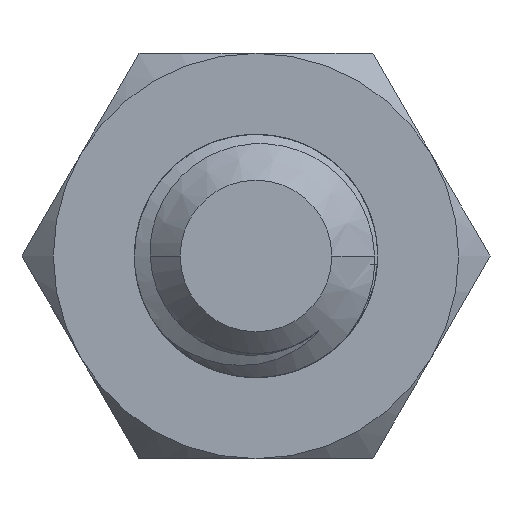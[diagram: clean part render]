
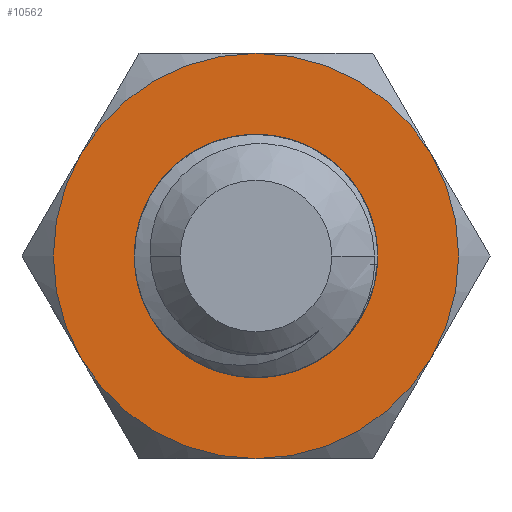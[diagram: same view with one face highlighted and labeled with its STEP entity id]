
A CAD part, front view. The second image highlights one B-rep face of the part: STEP entity #10562.
In plain terms, the highlighted planar face has unit normal (0, -1, 0).
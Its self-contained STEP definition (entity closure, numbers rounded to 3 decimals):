
#3989=CARTESIAN_POINT('',(0.,33.13,0.));
#3990=DIRECTION('',(0.,-1.,0.));
#3991=DIRECTION('',(-1.,0.,0.));
#3992=AXIS2_PLACEMENT_3D('',#3989,#3990,#3991);
#4012=CARTESIAN_POINT('',(0.,33.13,0.));
#4013=DIRECTION('',(0.,-1.,0.));
#4014=DIRECTION('',(1.,0.,0.));
#4015=AXIS2_PLACEMENT_3D('',#4012,#4013,#4014);
#4028=CARTESIAN_POINT('',(0.,33.13,0.));
#4029=DIRECTION('',(0.,1.,0.));
#4030=DIRECTION('',(0.866,0.,-0.5));
#4031=AXIS2_PLACEMENT_3D('',#4028,#4029,#4030);
#4036=CARTESIAN_POINT('',(0.,33.13,0.));
#4037=DIRECTION('',(0.,1.,0.));
#4038=DIRECTION('',(0.,0.,-1.));
#4039=AXIS2_PLACEMENT_3D('',#4036,#4037,#4038);
#4044=CARTESIAN_POINT('',(0.,33.13,0.));
#4045=DIRECTION('',(0.,1.,0.));
#4046=DIRECTION('',(-0.866,0.,0.5));
#4047=AXIS2_PLACEMENT_3D('',#4044,#4045,#4046);
#4052=CARTESIAN_POINT('',(0.,33.13,0.));
#4053=DIRECTION('',(0.,1.,0.));
#4054=DIRECTION('',(0.,0.,1.));
#4055=AXIS2_PLACEMENT_3D('',#4052,#4053,#4054);
#4060=CARTESIAN_POINT('',(0.,33.13,0.));
#4061=DIRECTION('',(0.,-1.,0.));
#4062=DIRECTION('',(0.866,0.,-0.5));
#4063=AXIS2_PLACEMENT_3D('',#4060,#4061,#4062);
#4333=CARTESIAN_POINT('',(0.,33.13,0.));
#4334=DIRECTION('',(0.,-1.,0.));
#4335=DIRECTION('',(-0.866,0.,0.5));
#4336=AXIS2_PLACEMENT_3D('',#4333,#4334,#4335);
#8208=CARTESIAN_POINT('',(2.4,33.13,0.));
#8209=CARTESIAN_POINT('',(-2.4,33.13,0.));
#8210=VERTEX_POINT('',#8208);
#8211=VERTEX_POINT('',#8209);
#8212=CARTESIAN_POINT('',(4.33,33.13,-2.5));
#8213=CARTESIAN_POINT('',(0.,33.13,-5.));
#8214=VERTEX_POINT('',#8212);
#8215=VERTEX_POINT('',#8213);
#8216=CARTESIAN_POINT('',(-4.33,33.13,-2.5));
#8217=VERTEX_POINT('',#8216);
#8218=CARTESIAN_POINT('',(-4.33,33.13,2.5));
#8219=CARTESIAN_POINT('',(0.,33.13,5.));
#8220=VERTEX_POINT('',#8218);
#8221=VERTEX_POINT('',#8219);
#8222=CARTESIAN_POINT('',(4.33,33.13,2.5));
#8223=VERTEX_POINT('',#8222);
#10539=CARTESIAN_POINT('',(0.,33.13,0.));
#10540=DIRECTION('',(0.,1.,0.));
#10541=DIRECTION('',(1.,0.,0.));
#10542=AXIS2_PLACEMENT_3D('',#10539,#10540,#10541);
#10543=PLANE('',#10542);
#10545=ORIENTED_EDGE('',*,*,#10544,.F.);
#10547=ORIENTED_EDGE('',*,*,#10546,.T.);
#10549=ORIENTED_EDGE('',*,*,#10548,.T.);
#10551=ORIENTED_EDGE('',*,*,#10550,.F.);
#10553=ORIENTED_EDGE('',*,*,#10552,.T.);
#10555=ORIENTED_EDGE('',*,*,#10554,.T.);
#10556=EDGE_LOOP('',(#10545,#10547,#10549,#10551,#10553,#10555));
#10557=FACE_OUTER_BOUND('',#10556,.F.);
#10558=ORIENTED_EDGE('',*,*,#10531,.T.);
#10559=ORIENTED_EDGE('',*,*,#10518,.T.);
#10560=EDGE_LOOP('',(#10558,#10559));
#10561=FACE_BOUND('',#10560,.F.);
#3993=CIRCLE('',#3992,2.4);
#4016=CIRCLE('',#4015,2.4);
#4032=CIRCLE('',#4031,5.);
#4040=CIRCLE('',#4039,5.);
#4048=CIRCLE('',#4047,5.);
#4056=CIRCLE('',#4055,5.);
#4064=CIRCLE('',#4063,5.);
#4337=CIRCLE('',#4336,5.);
#10518=EDGE_CURVE('',#8211,#8210,#3993,.T.);
#10531=EDGE_CURVE('',#8210,#8211,#4016,.T.);
#10544=EDGE_CURVE('',#8214,#8223,#4064,.T.);
#10546=EDGE_CURVE('',#8214,#8215,#4032,.T.);
#10548=EDGE_CURVE('',#8215,#8217,#4040,.T.);
#10550=EDGE_CURVE('',#8220,#8217,#4337,.T.);
#10552=EDGE_CURVE('',#8220,#8221,#4048,.T.);
#10554=EDGE_CURVE('',#8221,#8223,#4056,.T.);
#10562=ADVANCED_FACE('',(#10557,#10561),#10543,.F.);
